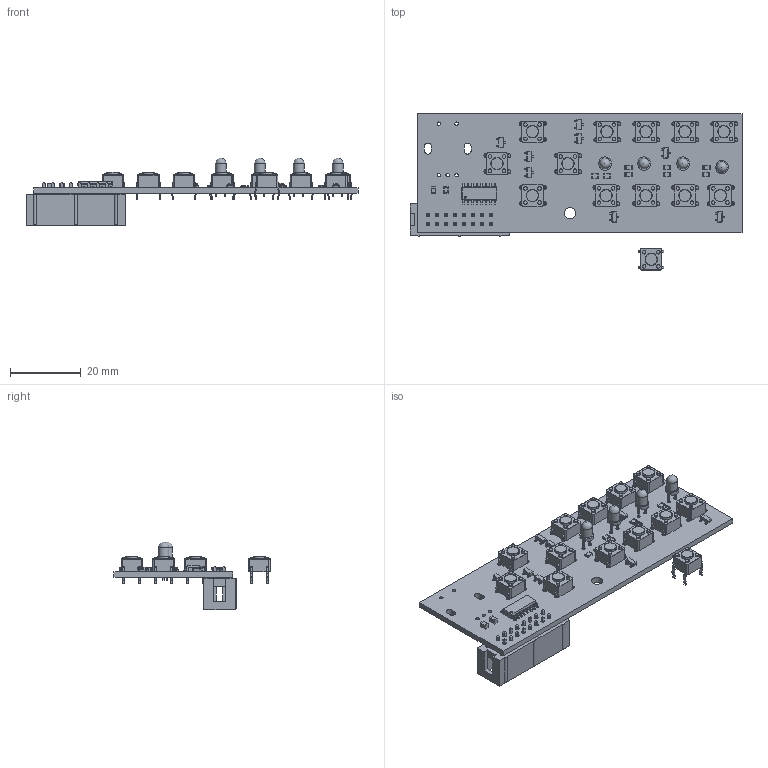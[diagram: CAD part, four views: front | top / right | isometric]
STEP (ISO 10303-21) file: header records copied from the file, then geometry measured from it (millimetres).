
FILE_DESCRIPTION(('KiCad electronic assembly'),'2;1');
FILE_NAME('AD5522-Fr-Panel.step','2024-11-29T14:47:20',('Pcbnew'),( 'Kicad'),'Open CASCADE STEP processor 7.8','KiCad to STEP converter' ,'Unknown');
FILE_SCHEMA(('AUTOMOTIVE_DESIGN { 1 0 10303 214 1 1 1 1 }'));
Length unit declared in the file: millimetre
Products named in the file (16): AD5522-Fr-Panel 1; SW_PUSH_6mm; R_0805_2012Metric; LED_D3.0mm; SOT-23-3; C_0805_2012Metric; SOIC-16_3.9x9.9mm_P1.27mm; SOIC_16_39x99mm_P127mm; IDC-Header_2x08_P2.54mm_Vertical; IDC_Header_2x08_P254mm_Vertical; AD5522-Fr-Panel_PCB
Assembly tree (45 placements, depth 3):
  AD5522-Fr-Panel 1
    SW_PUSH_6mm  x13
      SW_PUSH_6mm
    R_0805_2012Metric  x8
      R_0805_2012Metric
    LED_D3.0mm  x4
      LED_D3.0mm
    SOT-23-3  x8
      SOT-23-3
    C_0805_2012Metric  x2
      C_0805_2012Metric
    SOIC-16_3.9x9.9mm_P1.27mm
      SOIC_16_39x99mm_P127mm
    IDC-Header_2x08_P2.54mm_Vertical
      IDC_Header_2x08_P254mm_Vertical
    AD5522-Fr-Panel_PCB
Bounding box: 93.64 x 44 x 19.1 mm (x, y, z)
Volume: 7975.7 mm3; surface area: 12028.1 mm2
Topology: 38 solids, 38 shells, 2943 faces, 7582 edges, 4831 vertices
Faces by surface type: plane 1877, cylinder 881, bspline 168, torus 13, sphere 4
Full cylindrical faces by diameter (mm): 0.6 x1, 0.9 x8, 1 x79, 1.1 x48, 3 x4, 3.2 x1, 3.5 x13
Entity records: 34626 total; most frequent: CARTESIAN_POINT 5108, ORIENTED_EDGE 4778, DIRECTION 4667, EDGE_CURVE 2389, LINE 1863, VECTOR 1863, VERTEX_POINT 1507, AXIS2_PLACEMENT_3D 1402
